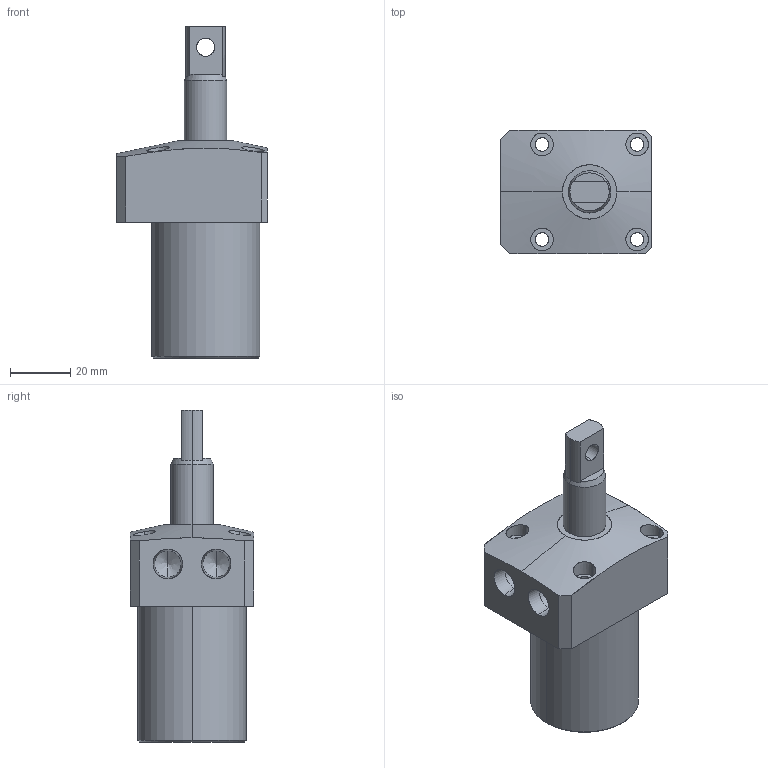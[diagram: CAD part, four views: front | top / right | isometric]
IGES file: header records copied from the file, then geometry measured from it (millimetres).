
Start section: SolidWorks IGES file using analytic representation for surfaces
Global section: file name: E:\IGS-PART-DRG\SC02-362-LP.IGS; native system: SolidWorks 2019; preprocessor: SolidWorks 2019; author: SSVT; date: 210822.093314; units: millimetre
Bounding box: 50 x 41 x 110 mm (x, y, z)
Surface area: 21109.9 mm2 (no closed solid volume)
Topology: 0 solids, 0 shells, 73 faces, 1497 edges, 1493 vertices
Faces by surface type: revolution 49, bspline 24
